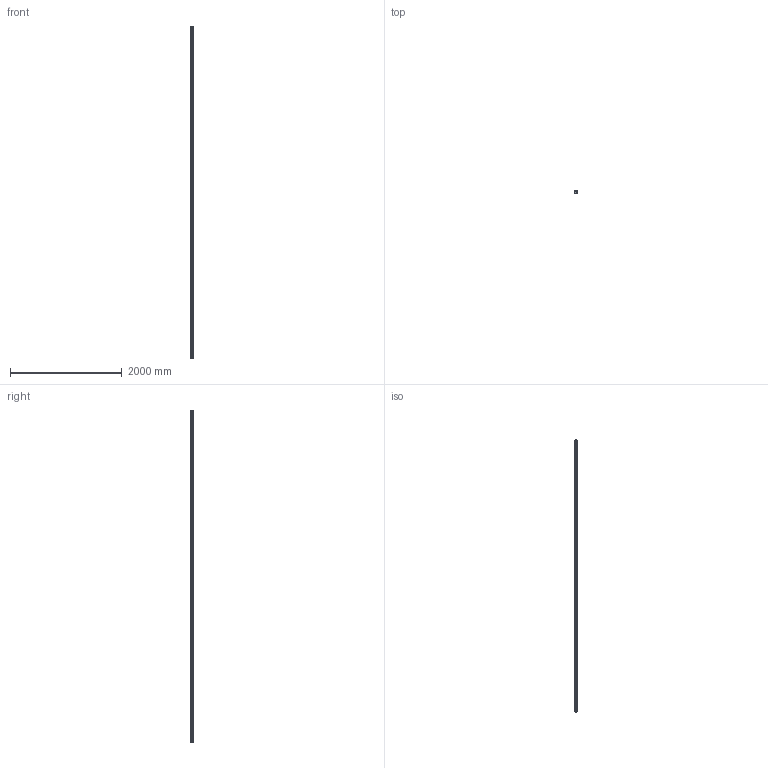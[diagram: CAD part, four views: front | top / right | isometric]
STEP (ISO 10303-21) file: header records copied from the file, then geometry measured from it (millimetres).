
FILE_DESCRIPTION((''),'2;1');
FILE_NAME('ROLLENSCHIENE_C','2021-12-23T05:33:26',('ac91sw'),(''),'CREO PARAMETRIC BY PTC INC, 2020044','CREO PARAMETRIC BY PTC INC, 2020044','');
FILE_SCHEMA(('AUTOMOTIVE_DESIGN { 1 0 10303 214 1 1 1 1 }'));
Length unit declared in the file: millimetre
Products named in the file (3): ROLLENSCHIENE_C_SKEL; ROLLENSCHIENE_C_RAIL1; ROLLENSCHIENE_C
Assembly tree (2 placements, depth 2):
  ROLLENSCHIENE_C
    ROLLENSCHIENE_C_SKEL
    ROLLENSCHIENE_C_RAIL1
Bounding box: 53 x 47.55 x 5936 mm (x, y, z)
Volume: 10189912.9 mm3; surface area: 1477697.2 mm2
Topology: 1 solids, 1 shells, 563 faces, 1544 edges, 1375 vertices
Faces by surface type: cylinder 400, plane 159, cone 4
Entity records: 19234 total; most frequent: DIRECTION 3524, CARTESIAN_POINT 3115, ORIENTED_EDGE 2684, AXIS2_PLACEMENT_3D 1392, EDGE_CURVE 1342, VERTEX_POINT 882, EDGE_LOOP 862, CIRCLE 800
